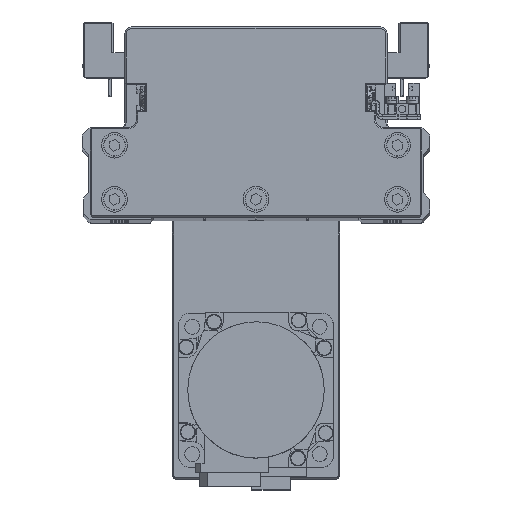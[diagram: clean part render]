
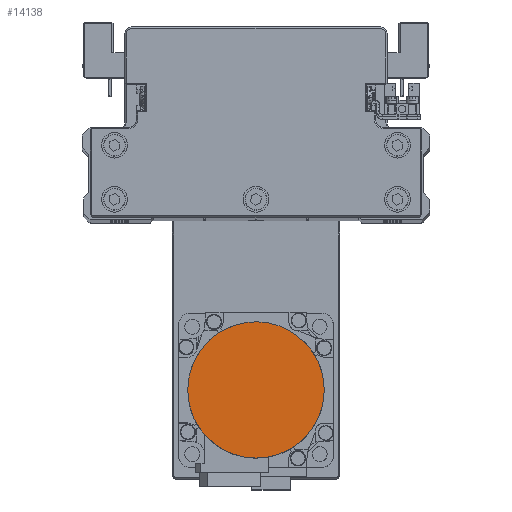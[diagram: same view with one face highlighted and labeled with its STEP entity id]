
A CAD part, top view. The second image highlights one B-rep face of the part: STEP entity #14138.
In plain terms, the highlighted planar face has unit normal (0, 0, 1) as drawn and (0, 0, -1) by its records, which use the part's own axes.
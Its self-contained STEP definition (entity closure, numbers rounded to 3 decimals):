
#142 = CARTESIAN_POINT ( 'NONE',  ( 6.871, -25.652, -109.7 ) ) ;
#204 = CARTESIAN_POINT ( 'NONE',  ( 26.329, 3.469, -109.7 ) ) ;
#326 = CARTESIAN_POINT ( 'NONE',  ( 26.5, -1.734, -109.7 ) ) ;
#330 = VERTEX_POINT ( 'NONE', #20928 ) ;
#394 = CARTESIAN_POINT ( 'NONE',  ( 3.469, 26.329, -109.7 ) ) ;
#597 = CARTESIAN_POINT ( 'NONE',  ( -23.819, 11.744, -109.7 ) ) ;
#1084 = ORIENTED_EDGE ( 'NONE', *, *, #1834, .F. ) ;
#1468 = CARTESIAN_POINT ( 'NONE',  ( 0., 0., -109.7 ) ) ;
#1833 = CARTESIAN_POINT ( 'NONE',  ( -26.5, 0., -109.7 ) ) ;
#1834 = EDGE_CURVE ( 'NONE', #330, #19500, #27447, .T. ) ;
#3013 = CARTESIAN_POINT ( 'NONE',  ( -25.652, -6.871, -109.7 ) ) ;
#3217 = CARTESIAN_POINT ( 'NONE',  ( -1.734, -26.5, -109.7 ) ) ;
#3429 = CARTESIAN_POINT ( 'NONE',  ( 25.147, -8.539, -109.7 ) ) ;
#3494 = CARTESIAN_POINT ( 'NONE',  ( 11.744, 23.819, -109.7 ) ) ;
#3685 = CARTESIAN_POINT ( 'NONE',  ( -19.965, 17.512, -109.7 ) ) ;
#6110 = CARTESIAN_POINT ( 'NONE',  ( -26.5, 0., -109.7 ) ) ;
#6302 = CARTESIAN_POINT ( 'NONE',  ( -8.539, -25.147, -109.7 ) ) ;
#6499 = CARTESIAN_POINT ( 'NONE',  ( 21.07, -16.165, -109.7 ) ) ;
#6577 = CARTESIAN_POINT ( 'NONE',  ( 17.512, 19.965, -109.7 ) ) ;
#6778 = CARTESIAN_POINT ( 'NONE',  ( -13.28, 22.998, -109.7 ) ) ;
#7670 = ORIENTED_EDGE ( 'NONE', *, *, #8055, .F. ) ;
#8055 = EDGE_CURVE ( 'NONE', #19500, #330, #10593, .T. ) ;
#9387 = CARTESIAN_POINT ( 'NONE',  ( -16.165, -21.07, -109.7 ) ) ;
#9577 = CARTESIAN_POINT ( 'NONE',  ( 16.165, -21.07, -109.7 ) ) ;
#9646 = CARTESIAN_POINT ( 'NONE',  ( 22.998, 13.28, -109.7 ) ) ;
#9853 = CARTESIAN_POINT ( 'NONE',  ( -6.871, 25.652, -109.7 ) ) ;
#10053 = CARTESIAN_POINT ( 'NONE',  ( -26.5, 1.734, -109.7 ) ) ;
#10593 = B_SPLINE_CURVE_WITH_KNOTS ( 'NONE', 3,
 ( #6110, #18644, #31164, #3013, #15538, #28079, #40625, #12473, #25006, #37549, #9387, #21921, #34444, #6302, #18834, #31356, #3217, #15748, #28290, #142, #12670, #25195, #37739, #9577, #22107, #34643, #6499, #19037, #31569, #3429, #15948, #28485, #326, #12861 ),
 .UNSPECIFIED., .F., .F.,
 ( 4, 2, 2, 2, 2, 2, 2, 2, 2, 2, 2, 2, 2, 2, 2, 2, 4 ),
 ( 0., 0.063, 0.125, 0.188, 0.25, 0.312, 0.375, 0.437, 0.5, 0.562, 0.625, 0.687, 0.75, 0.813, 0.875, 0.938, 1. ),
 .UNSPECIFIED. ) ;
#11899 = AXIS2_PLACEMENT_3D ( 'NONE', #1468, #14004, #26517 ) ;
#12473 = CARTESIAN_POINT ( 'NONE',  ( -21.07, -16.165, -109.7 ) ) ;
#12670 = CARTESIAN_POINT ( 'NONE',  ( 8.539, -25.147, -109.7 ) ) ;
#12742 = CARTESIAN_POINT ( 'NONE',  ( 25.652, 6.871, -109.7 ) ) ;
#12861 = CARTESIAN_POINT ( 'NONE',  ( 26.5, 0., -109.7 ) ) ;
#12928 = CARTESIAN_POINT ( 'NONE',  ( 1.734, 26.5, -109.7 ) ) ;
#13132 = CARTESIAN_POINT ( 'NONE',  ( -25.147, 8.539, -109.7 ) ) ;
#14004 = DIRECTION ( 'NONE',  ( 0., 0., 1. ) ) ;
#14138 = ADVANCED_FACE ( 'NONE', ( #17078 ), #29614, .F. ) ;
#15538 = CARTESIAN_POINT ( 'NONE',  ( -25.147, -8.539, -109.7 ) ) ;
#15748 = CARTESIAN_POINT ( 'NONE',  ( 1.734, -26.5, -109.7 ) ) ;
#15822 = CARTESIAN_POINT ( 'NONE',  ( 26.5, 0., -109.7 ) ) ;
#15948 = CARTESIAN_POINT ( 'NONE',  ( 25.652, -6.871, -109.7 ) ) ;
#16014 = CARTESIAN_POINT ( 'NONE',  ( 8.539, 25.147, -109.7 ) ) ;
#16202 = CARTESIAN_POINT ( 'NONE',  ( -21.07, 16.165, -109.7 ) ) ;
#17078 = FACE_OUTER_BOUND ( 'NONE', #25834, .T. ) ;
#18644 = CARTESIAN_POINT ( 'NONE',  ( -26.5, -1.734, -109.7 ) ) ;
#18834 = CARTESIAN_POINT ( 'NONE',  ( -6.871, -25.652, -109.7 ) ) ;
#19037 = CARTESIAN_POINT ( 'NONE',  ( 22.998, -13.28, -109.7 ) ) ;
#19115 = CARTESIAN_POINT ( 'NONE',  ( 16.165, 21.07, -109.7 ) ) ;
#19308 = CARTESIAN_POINT ( 'NONE',  ( -16.165, 21.07, -109.7 ) ) ;
#19500 = VERTEX_POINT ( 'NONE', #1833 ) ;
#20928 = CARTESIAN_POINT ( 'NONE',  ( 26.5, 0., -109.7 ) ) ;
#21921 = CARTESIAN_POINT ( 'NONE',  ( -13.28, -22.998, -109.7 ) ) ;
#22107 = CARTESIAN_POINT ( 'NONE',  ( 17.512, -19.965, -109.7 ) ) ;
#22179 = CARTESIAN_POINT ( 'NONE',  ( 21.07, 16.165, -109.7 ) ) ;
#22390 = CARTESIAN_POINT ( 'NONE',  ( -8.539, 25.147, -109.7 ) ) ;
#22587 = CARTESIAN_POINT ( 'NONE',  ( -26.5, 0., -109.7 ) ) ;
#25006 = CARTESIAN_POINT ( 'NONE',  ( -19.965, -17.512, -109.7 ) ) ;
#25195 = CARTESIAN_POINT ( 'NONE',  ( 11.744, -23.819, -109.7 ) ) ;
#25263 = CARTESIAN_POINT ( 'NONE',  ( 25.147, 8.539, -109.7 ) ) ;
#25456 = CARTESIAN_POINT ( 'NONE',  ( -1.734, 26.5, -109.7 ) ) ;
#25664 = CARTESIAN_POINT ( 'NONE',  ( -25.652, 6.871, -109.7 ) ) ;
#25834 = EDGE_LOOP ( 'NONE', ( #1084, #7670 ) ) ;
#26517 = DIRECTION ( 'NONE',  ( 1., 0., 0. ) ) ;
#27447 = B_SPLINE_CURVE_WITH_KNOTS ( 'NONE', 3,
 ( #15822, #28359, #204, #12742, #25263, #37804, #9646, #22179, #34716, #6577, #19115, #31639, #3494, #16014, #28551, #394, #12928, #25456, #37998, #9853, #22390, #34916, #6778, #19308, #31828, #3685, #16202, #28748, #597, #13132, #25664, #38210, #10053, #22587 ),
 .UNSPECIFIED., .F., .F.,
 ( 4, 2, 2, 2, 2, 2, 2, 2, 2, 2, 2, 2, 2, 2, 2, 2, 4 ),
 ( 0., 0.062, 0.125, 0.187, 0.25, 0.312, 0.375, 0.437, 0.5, 0.562, 0.625, 0.687, 0.75, 0.813, 0.875, 0.938, 1. ),
 .UNSPECIFIED. ) ;
#28079 = CARTESIAN_POINT ( 'NONE',  ( -23.819, -11.744, -109.7 ) ) ;
#28290 = CARTESIAN_POINT ( 'NONE',  ( 3.469, -26.329, -109.7 ) ) ;
#28359 = CARTESIAN_POINT ( 'NONE',  ( 26.5, 1.734, -109.7 ) ) ;
#28485 = CARTESIAN_POINT ( 'NONE',  ( 26.329, -3.469, -109.7 ) ) ;
#28551 = CARTESIAN_POINT ( 'NONE',  ( 6.871, 25.652, -109.7 ) ) ;
#28748 = CARTESIAN_POINT ( 'NONE',  ( -22.998, 13.28, -109.7 ) ) ;
#29614 = PLANE ( 'NONE',  #11899 ) ;
#31164 = CARTESIAN_POINT ( 'NONE',  ( -26.329, -3.469, -109.7 ) ) ;
#31356 = CARTESIAN_POINT ( 'NONE',  ( -3.469, -26.329, -109.7 ) ) ;
#31569 = CARTESIAN_POINT ( 'NONE',  ( 23.819, -11.744, -109.7 ) ) ;
#31639 = CARTESIAN_POINT ( 'NONE',  ( 13.28, 22.998, -109.7 ) ) ;
#31828 = CARTESIAN_POINT ( 'NONE',  ( -17.512, 19.965, -109.7 ) ) ;
#34444 = CARTESIAN_POINT ( 'NONE',  ( -11.744, -23.819, -109.7 ) ) ;
#34643 = CARTESIAN_POINT ( 'NONE',  ( 19.965, -17.512, -109.7 ) ) ;
#34716 = CARTESIAN_POINT ( 'NONE',  ( 19.965, 17.512, -109.7 ) ) ;
#34916 = CARTESIAN_POINT ( 'NONE',  ( -11.744, 23.819, -109.7 ) ) ;
#37549 = CARTESIAN_POINT ( 'NONE',  ( -17.512, -19.965, -109.7 ) ) ;
#37739 = CARTESIAN_POINT ( 'NONE',  ( 13.28, -22.998, -109.7 ) ) ;
#37804 = CARTESIAN_POINT ( 'NONE',  ( 23.819, 11.744, -109.7 ) ) ;
#37998 = CARTESIAN_POINT ( 'NONE',  ( -3.469, 26.329, -109.7 ) ) ;
#38210 = CARTESIAN_POINT ( 'NONE',  ( -26.329, 3.469, -109.7 ) ) ;
#40625 = CARTESIAN_POINT ( 'NONE',  ( -22.998, -13.28, -109.7 ) ) ;
